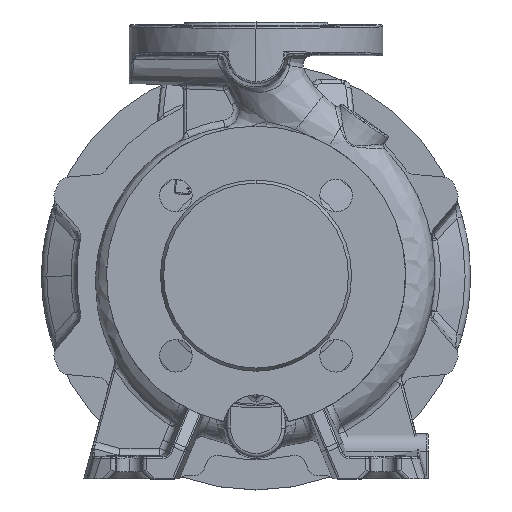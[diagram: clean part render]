
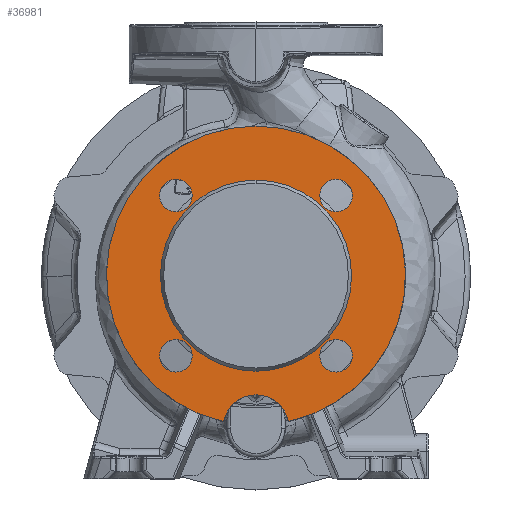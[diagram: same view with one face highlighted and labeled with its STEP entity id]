
A CAD part, top view. The second image highlights one B-rep face of the part: STEP entity #36981.
In plain terms, the highlighted planar face has unit normal (0, 0, 1).
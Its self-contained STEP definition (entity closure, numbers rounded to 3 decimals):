
#473 = CIRCLE ( 'NONE', #15932, 82.5 ) ;
#1377 = VERTEX_POINT ( 'NONE', #28270 ) ;
#1562 = DIRECTION ( 'NONE',  ( 0., 0., -1. ) ) ;
#2685 = FACE_BOUND ( 'NONE', #31746, .T. ) ;
#3184 = CARTESIAN_POINT ( 'NONE',  ( 0., 82.5, 77. ) ) ;
#3373 = CIRCLE ( 'NONE', #36347, 9. ) ;
#3468 = CIRCLE ( 'NONE', #13860, 52.732 ) ;
#5271 = EDGE_CURVE ( 'NONE', #45613, #5403, #55583, .T. ) ;
#5403 = VERTEX_POINT ( 'NONE', #38339 ) ;
#5428 = CARTESIAN_POINT ( 'NONE',  ( 35.194, 44.194, 77. ) ) ;
#6485 = CARTESIAN_POINT ( 'NONE',  ( -44.194, -44.194, 77. ) ) ;
#6766 = ORIENTED_EDGE ( 'NONE', *, *, #18789, .T. ) ;
#6997 = ORIENTED_EDGE ( 'NONE', *, *, #44636, .F. ) ;
#7133 = CIRCLE ( 'NONE', #27086, 82.5 ) ;
#7192 = CIRCLE ( 'NONE', #34789, 9. ) ;
#7928 = CARTESIAN_POINT ( 'NONE',  ( 0., 0., 77. ) ) ;
#8003 = VERTEX_POINT ( 'NONE', #8095 ) ;
#8021 = AXIS2_PLACEMENT_3D ( 'NONE', #9553, #8775, #27411 ) ;
#8095 = CARTESIAN_POINT ( 'NONE',  ( 53.194, -44.194, 77. ) ) ;
#8634 = VERTEX_POINT ( 'NONE', #19896 ) ;
#8775 = DIRECTION ( 'NONE',  ( 0., 0., -1. ) ) ;
#8875 = ORIENTED_EDGE ( 'NONE', *, *, #23398, .T. ) ;
#9553 = CARTESIAN_POINT ( 'NONE',  ( 44.194, 44.194, 77. ) ) ;
#9720 = DIRECTION ( 'NONE',  ( 0., 0., -1. ) ) ;
#9827 = FACE_BOUND ( 'NONE', #27242, .T. ) ;
#9967 = CARTESIAN_POINT ( 'NONE',  ( 0., 0., 77. ) ) ;
#9986 = CARTESIAN_POINT ( 'NONE',  ( 44.194, -44.194, 77. ) ) ;
#10151 = DIRECTION ( 'NONE',  ( 0., 0., -1. ) ) ;
#12717 = DIRECTION ( 'NONE',  ( 0., 1., 0. ) ) ;
#13860 = AXIS2_PLACEMENT_3D ( 'NONE', #9967, #10151, #41676 ) ;
#14360 = DIRECTION ( 'NONE',  ( 0., 1., 0. ) ) ;
#15098 = EDGE_LOOP ( 'NONE', ( #8875, #42390 ) ) ;
#15932 = AXIS2_PLACEMENT_3D ( 'NONE', #54784, #9720, #55167 ) ;
#17041 = VERTEX_POINT ( 'NONE', #5428 ) ;
#17562 = CARTESIAN_POINT ( 'NONE',  ( 44.194, 44.194, 77. ) ) ;
#18031 = EDGE_CURVE ( 'NONE', #52101, #31840, #3468, .T. ) ;
#18134 = VERTEX_POINT ( 'NONE', #39511 ) ;
#18343 = DIRECTION ( 'NONE',  ( 0., 1., 0. ) ) ;
#18789 = EDGE_CURVE ( 'NONE', #1377, #8634, #3373, .T. ) ;
#19038 = CIRCLE ( 'NONE', #22519, 9. ) ;
#19050 = EDGE_LOOP ( 'NONE', ( #56538, #27204 ) ) ;
#19305 = CARTESIAN_POINT ( 'NONE',  ( 0., 0., 77. ) ) ;
#19493 = AXIS2_PLACEMENT_3D ( 'NONE', #30725, #57729, #12717 ) ;
#19896 = CARTESIAN_POINT ( 'NONE',  ( -53.194, -44.194, 77. ) ) ;
#20373 = CARTESIAN_POINT ( 'NONE',  ( 35.194, -44.194, 77. ) ) ;
#21547 = CARTESIAN_POINT ( 'NONE',  ( 0., 52.732, 77. ) ) ;
#21595 = VERTEX_POINT ( 'NONE', #25047 ) ;
#21945 = PLANE ( 'NONE',  #25420 ) ;
#22327 = CIRCLE ( 'NONE', #45075, 9. ) ;
#22519 = AXIS2_PLACEMENT_3D ( 'NONE', #28523, #42186, #46354 ) ;
#22734 = DIRECTION ( 'NONE',  ( 0., 1., 0. ) ) ;
#22805 = EDGE_CURVE ( 'NONE', #47449, #21595, #38444, .T. ) ;
#23398 = EDGE_CURVE ( 'NONE', #8003, #58034, #46130, .T. ) ;
#23737 = EDGE_LOOP ( 'NONE', ( #30346, #26388 ) ) ;
#24746 = DIRECTION ( 'NONE',  ( 0., 0., -1. ) ) ;
#25047 = CARTESIAN_POINT ( 'NONE',  ( -53.194, 44.194, 77. ) ) ;
#25387 = FACE_BOUND ( 'NONE', #19050, .T. ) ;
#25420 = AXIS2_PLACEMENT_3D ( 'NONE', #30829, #39947, #30451 ) ;
#25850 = ORIENTED_EDGE ( 'NONE', *, *, #5271, .F. ) ;
#26388 = ORIENTED_EDGE ( 'NONE', *, *, #35223, .T. ) ;
#26852 = FACE_OUTER_BOUND ( 'NONE', #57874, .T. ) ;
#27086 = AXIS2_PLACEMENT_3D ( 'NONE', #7928, #58126, #30537 ) ;
#27204 = ORIENTED_EDGE ( 'NONE', *, *, #18031, .T. ) ;
#27242 = EDGE_LOOP ( 'NONE', ( #55541, #30641 ) ) ;
#27379 = EDGE_CURVE ( 'NONE', #8634, #1377, #22327, .T. ) ;
#27411 = DIRECTION ( 'NONE',  ( 0., 1., 0. ) ) ;
#27668 = DIRECTION ( 'NONE',  ( 0., 0., -1. ) ) ;
#28041 = CARTESIAN_POINT ( 'NONE',  ( -44.194, 44.194, 77. ) ) ;
#28110 = DIRECTION ( 'NONE',  ( 0., 1., 0. ) ) ;
#28270 = CARTESIAN_POINT ( 'NONE',  ( -35.194, -44.194, 77. ) ) ;
#28523 = CARTESIAN_POINT ( 'NONE',  ( 44.194, -44.194, 77. ) ) ;
#30007 = CIRCLE ( 'NONE', #8021, 9. ) ;
#30346 = ORIENTED_EDGE ( 'NONE', *, *, #22805, .T. ) ;
#30451 = DIRECTION ( 'NONE',  ( 0., 1., 0. ) ) ;
#30537 = DIRECTION ( 'NONE',  ( 0., 1., 0. ) ) ;
#30641 = ORIENTED_EDGE ( 'NONE', *, *, #47239, .T. ) ;
#30725 = CARTESIAN_POINT ( 'NONE',  ( -44.194, 44.194, 77. ) ) ;
#30829 = CARTESIAN_POINT ( 'NONE',  ( 0., 52.732, 77. ) ) ;
#30969 = ORIENTED_EDGE ( 'NONE', *, *, #50980, .F. ) ;
#31746 = EDGE_LOOP ( 'NONE', ( #6766, #51240 ) ) ;
#31840 = VERTEX_POINT ( 'NONE', #21547 ) ;
#32542 = FACE_BOUND ( 'NONE', #23737, .T. ) ;
#32618 = DIRECTION ( 'NONE',  ( 0., 1., 0. ) ) ;
#34789 = AXIS2_PLACEMENT_3D ( 'NONE', #28041, #27668, #32618 ) ;
#35223 = EDGE_CURVE ( 'NONE', #21595, #47449, #7192, .T. ) ;
#36188 = DIRECTION ( 'NONE',  ( 0., 0., -1. ) ) ;
#36347 = AXIS2_PLACEMENT_3D ( 'NONE', #6485, #24746, #28110 ) ;
#36981 = ADVANCED_FACE ( 'NONE', ( #25387, #43120, #9827, #26852, #2685, #32542 ), #21945, .F. ) ;
#38329 = EDGE_CURVE ( 'NONE', #58034, #8003, #19038, .T. ) ;
#38339 = CARTESIAN_POINT ( 'NONE',  ( -17.878, -80.54, 77. ) ) ;
#38444 = CIRCLE ( 'NONE', #19493, 9. ) ;
#39305 = VERTEX_POINT ( 'NONE', #3184 ) ;
#39408 = DIRECTION ( 'NONE',  ( 0., 0., -1. ) ) ;
#39511 = CARTESIAN_POINT ( 'NONE',  ( 53.194, 44.194, 77. ) ) ;
#39947 = DIRECTION ( 'NONE',  ( 0., 0., -1. ) ) ;
#41676 = DIRECTION ( 'NONE',  ( 0., 1., 0. ) ) ;
#41696 = DIRECTION ( 'NONE',  ( 0., 0., -1. ) ) ;
#42186 = DIRECTION ( 'NONE',  ( 0., 0., -1. ) ) ;
#42390 = ORIENTED_EDGE ( 'NONE', *, *, #38329, .T. ) ;
#43120 = FACE_BOUND ( 'NONE', #15098, .T. ) ;
#43477 = AXIS2_PLACEMENT_3D ( 'NONE', #17562, #36188, #18343 ) ;
#44636 = EDGE_CURVE ( 'NONE', #39305, #45613, #473, .T. ) ;
#44696 = CARTESIAN_POINT ( 'NONE',  ( 0., -84., 77. ) ) ;
#45075 = AXIS2_PLACEMENT_3D ( 'NONE', #52717, #39408, #52923 ) ;
#45568 = CIRCLE ( 'NONE', #56129, 52.732 ) ;
#45613 = VERTEX_POINT ( 'NONE', #49375 ) ;
#46130 = CIRCLE ( 'NONE', #53407, 9. ) ;
#46354 = DIRECTION ( 'NONE',  ( 0., 1., 0. ) ) ;
#47239 = EDGE_CURVE ( 'NONE', #17041, #18134, #48445, .T. ) ;
#47437 = EDGE_CURVE ( 'NONE', #31840, #52101, #45568, .T. ) ;
#47449 = VERTEX_POINT ( 'NONE', #50836 ) ;
#48445 = CIRCLE ( 'NONE', #43477, 9. ) ;
#49375 = CARTESIAN_POINT ( 'NONE',  ( 17.878, -80.54, 77. ) ) ;
#50836 = CARTESIAN_POINT ( 'NONE',  ( -35.194, 44.194, 77. ) ) ;
#50980 = EDGE_CURVE ( 'NONE', #5403, #39305, #7133, .T. ) ;
#51240 = ORIENTED_EDGE ( 'NONE', *, *, #27379, .T. ) ;
#52101 = VERTEX_POINT ( 'NONE', #56394 ) ;
#52717 = CARTESIAN_POINT ( 'NONE',  ( -44.194, -44.194, 77. ) ) ;
#52917 = DIRECTION ( 'NONE',  ( 0., 1., 0. ) ) ;
#52923 = DIRECTION ( 'NONE',  ( 0., 1., 0. ) ) ;
#53407 = AXIS2_PLACEMENT_3D ( 'NONE', #9986, #41696, #14360 ) ;
#54784 = CARTESIAN_POINT ( 'NONE',  ( 0., 0., 77. ) ) ;
#55167 = DIRECTION ( 'NONE',  ( 0., 1., 0. ) ) ;
#55541 = ORIENTED_EDGE ( 'NONE', *, *, #57242, .T. ) ;
#55583 = CIRCLE ( 'NONE', #58037, 18.21 ) ;
#56129 = AXIS2_PLACEMENT_3D ( 'NONE', #19305, #1562, #52917 ) ;
#56394 = CARTESIAN_POINT ( 'NONE',  ( 0., -52.732, 77. ) ) ;
#56538 = ORIENTED_EDGE ( 'NONE', *, *, #47437, .T. ) ;
#57242 = EDGE_CURVE ( 'NONE', #18134, #17041, #30007, .T. ) ;
#57729 = DIRECTION ( 'NONE',  ( 0., 0., -1. ) ) ;
#57874 = EDGE_LOOP ( 'NONE', ( #25850, #6997, #30969 ) ) ;
#58034 = VERTEX_POINT ( 'NONE', #20373 ) ;
#58037 = AXIS2_PLACEMENT_3D ( 'NONE', #44696, #58625, #22734 ) ;
#58126 = DIRECTION ( 'NONE',  ( 0., 0., -1. ) ) ;
#58625 = DIRECTION ( 'NONE',  ( 0., 0., 1. ) ) ;
